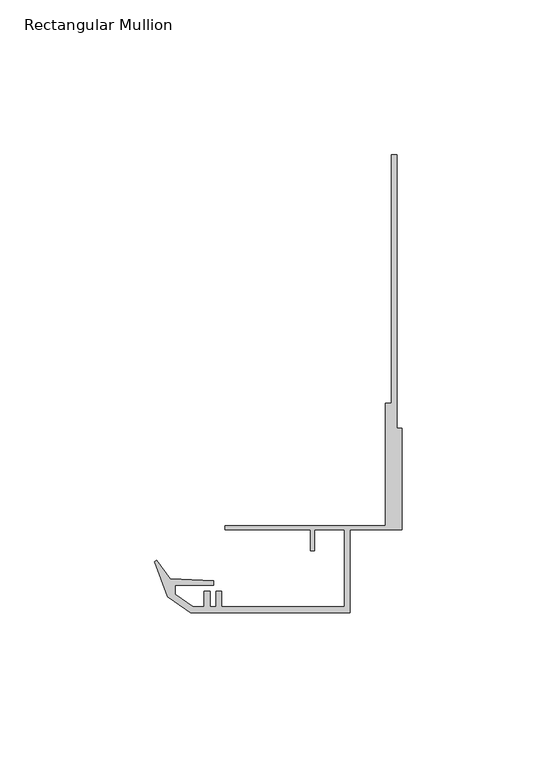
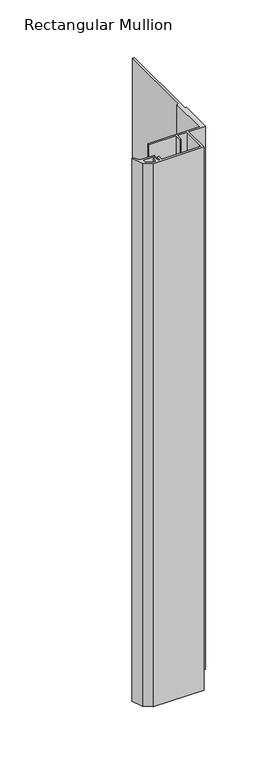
"""IFC4 building model written with IfcOpenShell, lengths in millimetres: member geometry, Rectangular Mullion : Danpal_VRS_Bottom-Mullion."""

from ifc_helpers import new_model, si_unit, frame, origin, place, context, project, spatial, polyline, outline, extrude, source, transform, mapped, element, save


def rectangular_mullion_fc1cdcd0(model_context):
    return source(origin(), model_context, "Body", "SweptSolid", [
        extrude(outline(polyline([(-79.2216912, 6.0092055), (-74.8674586, 0.1149337), (-60.8734984, -0.5155366), (-60.8734145, -1.9985848), (-73.2989907, -1.9992875), (-73.2988278, -4.8793924), (-67.5141123, -8.8675052), (-63.9180616, -8.8673018), (-63.9180616, -4.0153253), (-62.0481149, -4.0153253), (-62.0481149, -8.8671961), (-60.1494911, -8.8671961), (-60.1494911, -4.0153253), (-58.2791429, -4.0153253), (-58.2791429, -8.8669829), (-18.5986033, -8.8647387), (-18.6, 15.8302587), (-28.3, 15.8297101), (-28.2996176, 9.0698346), (-29.5996176, 9.069761), (-29.6, 15.8296366), (-57.2163694, 15.8280747), (-57.2163694, 17.230123), (-5.3000793, 17.2330591), (-5.3023089, 56.6572668), (-3.4023089, 56.6573743), (-3.4068448, 136.858186), (-1.6880948, 136.8582832), (-1.6831072, 48.6691587), (-0.0018572, 48.6692538), (0.0, 15.8313106), (-16.7999993, 15.8303605), (-16.7984887, -10.8734616), (-68.3166726, -10.8161429), (-75.6571036, -5.6694173), (-79.8611478, 5.5368244), (-79.2216912, 6.0092055)])), frame((0.0, 0.0, -579.6478591), z_axis=(0.0, 0.0, 1.0), x_axis=(1.0, 0.0, 0.0)), (0.0, 0.0, 1.0), 579.6478591),
    ])


if __name__ == "__main__":
    model = new_model("IFC4")
    model_context = context("Model", 3, world=origin())
    ifc_project = project(units=[si_unit("LENGTHUNIT", "METRE", prefix="MILLI")], contexts=[model_context])
    site = spatial("IfcSite", under=ifc_project)
    building = spatial("IfcBuilding", under=site)
    placement = place(None, origin())
    rectangular_mullion_shape = rectangular_mullion_fc1cdcd0(model_context)
    element("IfcMember", 1, ObjectType="Rectangular Mullion : Danpal_VRS_Bottom-Mullion", at=placement, inside=building, context=model_context, shape_type="MappedRepresentation", body=[
        mapped(rectangular_mullion_shape, transform((0.0, 0.0, 0.0), x_axis=(1.0, 0.0, 0.0), y_axis=(0.0, 1.0, 0.0), z_axis=(0.0, 0.0, 1.0))),
    ])
    save(model, "model.ifc")
